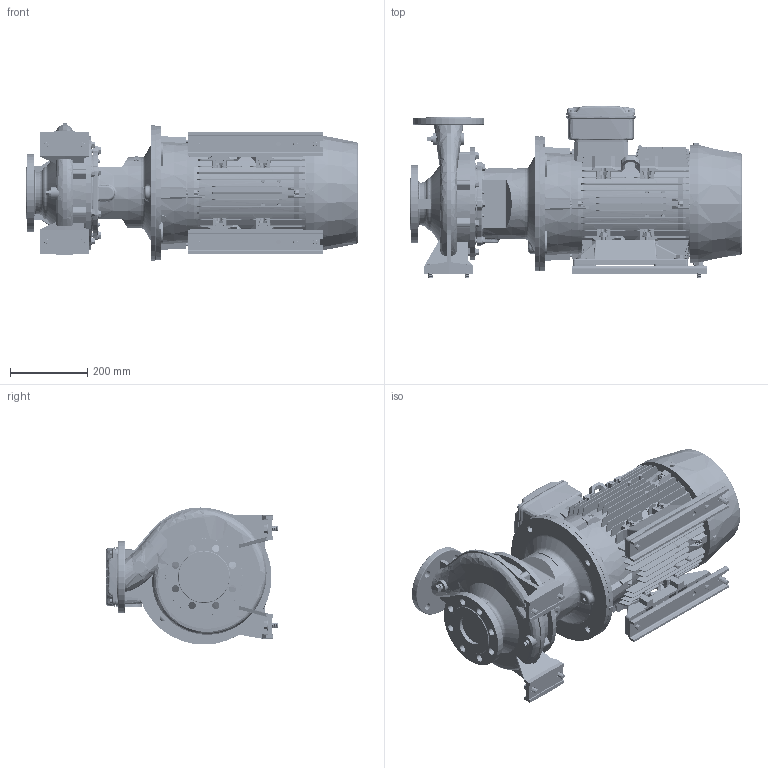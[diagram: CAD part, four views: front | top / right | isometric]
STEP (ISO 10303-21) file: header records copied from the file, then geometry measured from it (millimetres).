
FILE_DESCRIPTION (( 'STEP AP214' ), '1' );
FILE_NAME ('GSD2 65-200_15.0 & 18.5_(160ML)_W21.STEP', '2026-07-08T06:46:06', ( '' ), ( '' ), 'SwSTEP 2.0', 'SolidWorks 2024', '' );
FILE_SCHEMA (( 'AUTOMOTIVE_DESIGN' ));
Length unit declared in the file: millimetre
Products named in the file (9): 160M_L_ALIE3_W21T_B35; Parametric Flat Washer_M12; GSD2  65-200_15.0 & 18.5_(160ML)_W21; Parametric bolt and washer_SFT-A301B; Parametric bolt_SFT-A301B; Parametric bolt_SFT-A299B; Parametric bolt and washer_SFT-A299B; 65-200-160M_L_ﾃﾞﾌｫﾙﾄ; 210_254 x 20 - 271472113
Assembly tree (18 placements, depth 3):
  GSD2  65-200_15.0 & 18.5_(160ML)_W21
    65-200-160M_L_ﾃﾞﾌｫﾙﾄ
    210_254 x 20 - 271472113  x2
    Parametric bolt and washer_SFT-A299B  x4
      Parametric bolt_SFT-A299B
      Parametric Flat Washer_M12
    Parametric bolt and washer_SFT-A301B  x6
      Parametric bolt_SFT-A301B
      Parametric Flat Washer_M12
    160M_L_ALIE3_W21T_B35
Bounding box: 860.3 x 447.03 x 355.13 mm (x, y, z)
Volume: 45169816.8 mm3; surface area: 2944807.8 mm2
Topology: 53 solids, 59 shells, 6328 faces, 16352 edges, 10580 vertices
Faces by surface type: plane 3776, cylinder 1270, cone 598, bspline 432, torus 236, sphere 16
Entity records: 224886 total; most frequent: CARTESIAN_POINT 88790, ORIENTED_EDGE 29862, DIRECTION 25261, EDGE_CURVE 14931, VERTEX_POINT 9669, LINE 9469, VECTOR 9469, AXIS2_PLACEMENT_3D 7896
